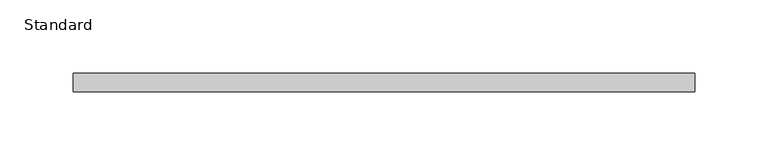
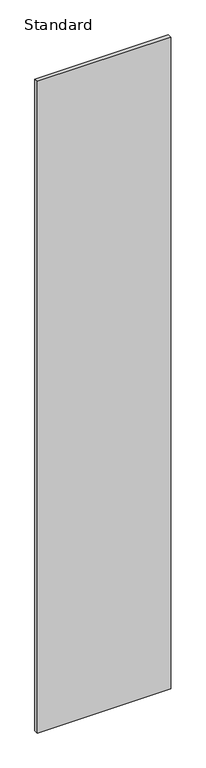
"""IFC4 building model written with IfcOpenShell, lengths in millimetres: furniture geometry, X_Partition-Compact Laminate-Duracube-Rectangular : Standard."""

from ifc_helpers import new_model, si_unit, frame, origin, place, context, project, spatial, polyline, outline, extrude, source, transform, mapped, element, save


def standard_fe4ffabc(model_context):
    return source(origin(), model_context, "Body", "SweptSolid", [
        extrude(outline(polyline([(257.7003264, 0.0), (257.7003264, -13.0), (-168.2996736, -13.0), (-168.2996736, 0.0), (257.7003264, 0.0)])), frame((0.0, 0.0, 200.0), z_axis=(0.0, 0.0, 1.0), x_axis=(1.0, 0.0, 0.0)), (0.0, 0.0, 1.0), 2198.0),
    ])


if __name__ == "__main__":
    model = new_model("IFC4")
    model_context = context("Model", 3, world=origin())
    ifc_project = project(units=[si_unit("LENGTHUNIT", "METRE", prefix="MILLI")], contexts=[model_context])
    site = spatial("IfcSite", under=ifc_project)
    building = spatial("IfcBuilding", under=site)
    placement = place(None, origin())
    standard_shape = standard_fe4ffabc(model_context)
    element("IfcFurniture", 1, ObjectType="X_Partition-Compact Laminate-Duracube-Rectangular : Standard", at=placement, inside=building, context=model_context, shape_type="MappedRepresentation", body=[
        mapped(standard_shape, transform((0.0, 0.0, 0.0), x_axis=(1.0, 0.0, 0.0), y_axis=(0.0, 1.0, 0.0), z_axis=(0.0, 0.0, 1.0))),
    ])
    save(model, "model.ifc")
